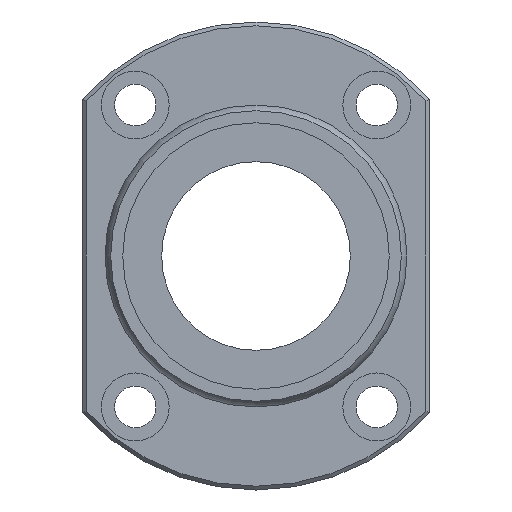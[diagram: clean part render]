
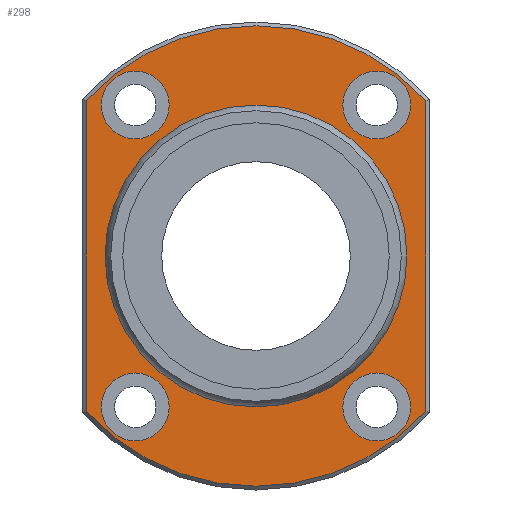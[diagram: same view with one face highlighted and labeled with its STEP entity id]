
A CAD part, left-side view. The second image highlights one B-rep face of the part: STEP entity #298.
In plain terms, the highlighted planar face has unit normal (-1, 0, 0).
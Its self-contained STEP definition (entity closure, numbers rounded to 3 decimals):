
#59=CARTESIAN_POINT('',(52.0,-22.5,20.591));
#60=VERTEX_POINT('',#59);
#68=CARTESIAN_POINT('',(52.0,-22.5,-20.591));
#69=VERTEX_POINT('',#68);
#70=CARTESIAN_POINT('',(52.0,-22.5,20.591));
#71=DIRECTION('',(0.0,0.0,-1.0));
#72=VECTOR('',#71,41.183);
#73=LINE('',#70,#72);
#74=EDGE_CURVE('',#60,#69,#73,.T.);
#101=CARTESIAN_POINT('',(52.0,22.5,-20.591));
#102=VERTEX_POINT('',#101);
#103=CARTESIAN_POINT('',(52.0,0.0,0.0));
#104=DIRECTION('',(1.0,0.0,0.0));
#105=DIRECTION('',(0.0,0.0,-1.0));
#106=AXIS2_PLACEMENT_3D('',#103,#104,#105);
#107=CIRCLE('',#106,30.5);
#108=EDGE_CURVE('',#69,#102,#107,.T.);
#134=CARTESIAN_POINT('',(52.0,22.5,20.591));
#135=VERTEX_POINT('',#134);
#136=CARTESIAN_POINT('',(52.0,22.5,-20.591));
#137=DIRECTION('',(0.0,0.0,1.0));
#138=VECTOR('',#137,41.183);
#139=LINE('',#136,#138);
#140=EDGE_CURVE('',#102,#135,#139,.T.);
#165=CARTESIAN_POINT('',(52.0,0.0,0.0));
#166=DIRECTION('',(1.0,0.0,0.0));
#167=DIRECTION('',(0.0,0.0,1.0));
#168=AXIS2_PLACEMENT_3D('',#165,#166,#167);
#169=CIRCLE('',#168,30.5);
#170=EDGE_CURVE('',#135,#60,#169,.T.);
#232=CARTESIAN_POINT('',(52.0,0.0,25.282));
#233=DIRECTION('',(-1.0,0.0,0.0));
#234=DIRECTION('',(0.0,0.0,1.0));
#235=AXIS2_PLACEMENT_3D('',#232,#233,#234);
#236=PLANE('',#235);
#237=ORIENTED_EDGE('',*,*,#74,.F.);
#238=ORIENTED_EDGE('',*,*,#170,.F.);
#239=ORIENTED_EDGE('',*,*,#140,.F.);
#240=ORIENTED_EDGE('',*,*,#108,.F.);
#241=EDGE_LOOP('',(#237,#238,#239,#240));
#242=FACE_OUTER_BOUND('',#241,.T.);
#243=CARTESIAN_POINT('',(52.,0.0,19.564));
#244=VERTEX_POINT('',#243);
#245=CARTESIAN_POINT('',(52.,0.0,0.0));
#246=DIRECTION('',(-1.0,0.0,0.0));
#247=DIRECTION('',(0.0,0.0,1.0));
#248=AXIS2_PLACEMENT_3D('',#245,#246,#247);
#249=CIRCLE('',#248,19.564);
#250=EDGE_CURVE('',#244,#244,#249,.T.);
#251=ORIENTED_EDGE('',*,*,#250,.F.);
#252=EDGE_LOOP('',(#251));
#253=FACE_BOUND('',#252,.T.);
#254=CARTESIAN_POINT('',(52.0,-11.5,-20.));
#255=VERTEX_POINT('',#254);
#256=CARTESIAN_POINT('',(52.0,-16.,-20.));
#257=DIRECTION('',(1.0,0.0,0.0));
#258=DIRECTION('',(0.0,1.0,0.0));
#259=AXIS2_PLACEMENT_3D('',#256,#257,#258);
#260=CIRCLE('',#259,4.5);
#261=EDGE_CURVE('',#255,#255,#260,.T.);
#262=ORIENTED_EDGE('',*,*,#261,.T.);
#263=EDGE_LOOP('',(#262));
#264=FACE_BOUND('',#263,.T.);
#265=CARTESIAN_POINT('',(52.0,-11.5,20.0));
#266=VERTEX_POINT('',#265);
#267=CARTESIAN_POINT('',(52.0,-16.,20.0));
#268=DIRECTION('',(1.0,0.0,0.0));
#269=DIRECTION('',(0.0,1.0,0.0));
#270=AXIS2_PLACEMENT_3D('',#267,#268,#269);
#271=CIRCLE('',#270,4.5);
#272=EDGE_CURVE('',#266,#266,#271,.T.);
#273=ORIENTED_EDGE('',*,*,#272,.T.);
#274=EDGE_LOOP('',(#273));
#275=FACE_BOUND('',#274,.T.);
#276=CARTESIAN_POINT('',(52.0,20.5,-20.));
#277=VERTEX_POINT('',#276);
#278=CARTESIAN_POINT('',(52.0,16.,-20.));
#279=DIRECTION('',(1.0,0.0,0.0));
#280=DIRECTION('',(0.0,1.0,0.0));
#281=AXIS2_PLACEMENT_3D('',#278,#279,#280);
#282=CIRCLE('',#281,4.5);
#283=EDGE_CURVE('',#277,#277,#282,.T.);
#284=ORIENTED_EDGE('',*,*,#283,.T.);
#285=EDGE_LOOP('',(#284));
#286=FACE_BOUND('',#285,.T.);
#287=CARTESIAN_POINT('',(52.0,20.5,20.0));
#288=VERTEX_POINT('',#287);
#289=CARTESIAN_POINT('',(52.0,16.,20.0));
#290=DIRECTION('',(1.0,0.0,0.0));
#291=DIRECTION('',(0.0,1.0,0.0));
#292=AXIS2_PLACEMENT_3D('',#289,#290,#291);
#293=CIRCLE('',#292,4.5);
#294=EDGE_CURVE('',#288,#288,#293,.T.);
#295=ORIENTED_EDGE('',*,*,#294,.T.);
#296=EDGE_LOOP('',(#295));
#297=FACE_BOUND('',#296,.T.);
#298=ADVANCED_FACE('',(#242,#253,#264,#275,#286,#297),#236,.T.);
